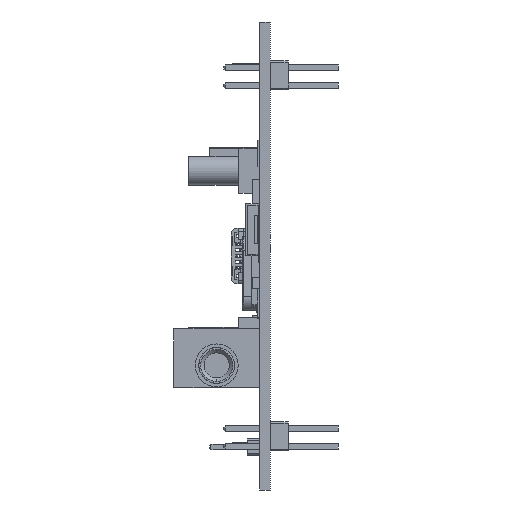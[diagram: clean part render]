
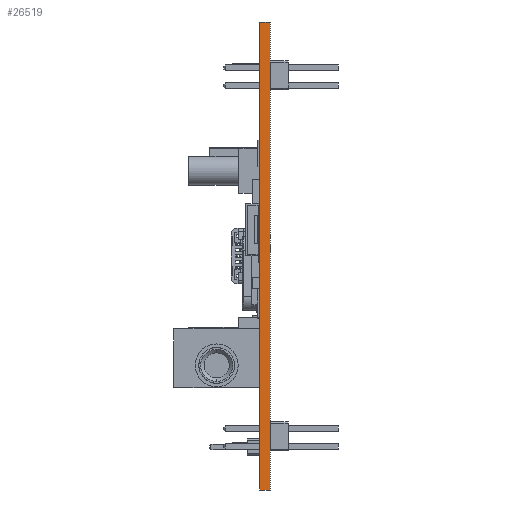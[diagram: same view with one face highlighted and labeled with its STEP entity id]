
A CAD part, left-side view. The second image highlights one B-rep face of the part: STEP entity #26519.
In plain terms, the highlighted planar face has unit normal (-1, 0, 0).
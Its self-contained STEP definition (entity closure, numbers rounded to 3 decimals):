
#107 = LINE ( 'NONE', #1070, #28729 ) ;
#1070 = CARTESIAN_POINT ( 'NONE',  ( 0., 1.5, 0. ) ) ;
#2971 = DIRECTION ( 'NONE',  ( 1., 0., 0. ) ) ;
#5841 = CARTESIAN_POINT ( 'NONE',  ( 0., 1.5, -65.5 ) ) ;
#7041 = ORIENTED_EDGE ( 'NONE', *, *, #13031, .T. ) ;
#7055 = LINE ( 'NONE', #74140, #35724 ) ;
#8002 = EDGE_CURVE ( 'NONE', #50422, #15890, #7055, .T. ) ;
#12854 = CARTESIAN_POINT ( 'NONE',  ( 0., 1.5, 0. ) ) ;
#13031 = EDGE_CURVE ( 'NONE', #48411, #47100, #34386, .T. ) ;
#13265 = ORIENTED_EDGE ( 'NONE', *, *, #37700, .T. ) ;
#15713 = EDGE_LOOP ( 'NONE', ( #13265, #45665, #55054, #64817, #60995, #7041 ) ) ;
#15890 = VERTEX_POINT ( 'NONE', #44245 ) ;
#18629 = VECTOR ( 'NONE', #67597, 1000. ) ;
#25695 = CARTESIAN_POINT ( 'NONE',  ( 0., 1.5, 0. ) ) ;
#26519 = ADVANCED_FACE ( 'NONE', ( #55957 ), #37247, .F. ) ;
#26538 = CARTESIAN_POINT ( 'NONE',  ( 0., 0., -65.5 ) ) ;
#28264 = VERTEX_POINT ( 'NONE', #40221 ) ;
#28331 = DIRECTION ( 'NONE',  ( 0., -1., 0. ) ) ;
#28371 = LINE ( 'NONE', #12854, #72272 ) ;
#28729 = VECTOR ( 'NONE', #52593, 1000. ) ;
#31512 = VERTEX_POINT ( 'NONE', #44092 ) ;
#32605 = VECTOR ( 'NONE', #63143, 1000. ) ;
#32634 = CARTESIAN_POINT ( 'NONE',  ( 0., 1.5, -65.5 ) ) ;
#34386 = LINE ( 'NONE', #5841, #32605 ) ;
#34491 = DIRECTION ( 'NONE',  ( 0., 0., 1. ) ) ;
#35640 = DIRECTION ( 'NONE',  ( 0., 0., 1. ) ) ;
#35724 = VECTOR ( 'NONE', #28331, 1000. ) ;
#37247 = PLANE ( 'NONE',  #54196 ) ;
#37700 = EDGE_CURVE ( 'NONE', #47100, #15890, #49139, .T. ) ;
#40221 = CARTESIAN_POINT ( 'NONE',  ( 0., 1.5, -32.748 ) ) ;
#40839 = EDGE_CURVE ( 'NONE', #48411, #28264, #54983, .T. ) ;
#42227 = EDGE_CURVE ( 'NONE', #31512, #50422, #107, .T. ) ;
#43019 = DIRECTION ( 'NONE',  ( 0., 0., -1. ) ) ;
#44092 = CARTESIAN_POINT ( 'NONE',  ( 0., 1.5, -25.426 ) ) ;
#44245 = CARTESIAN_POINT ( 'NONE',  ( 0., 0., 0. ) ) ;
#45665 = ORIENTED_EDGE ( 'NONE', *, *, #8002, .F. ) ;
#47100 = VERTEX_POINT ( 'NONE', #26538 ) ;
#48411 = VERTEX_POINT ( 'NONE', #32634 ) ;
#49139 = LINE ( 'NONE', #67347, #18629 ) ;
#50422 = VERTEX_POINT ( 'NONE', #64118 ) ;
#52593 = DIRECTION ( 'NONE',  ( 0., 0., 1. ) ) ;
#53173 = VECTOR ( 'NONE', #34491, 1000. ) ;
#54196 = AXIS2_PLACEMENT_3D ( 'NONE', #25695, #2971, #43019 ) ;
#54983 = LINE ( 'NONE', #68804, #53173 ) ;
#55054 = ORIENTED_EDGE ( 'NONE', *, *, #42227, .F. ) ;
#55957 = FACE_OUTER_BOUND ( 'NONE', #15713, .T. ) ;
#60995 = ORIENTED_EDGE ( 'NONE', *, *, #40839, .F. ) ;
#61272 = EDGE_CURVE ( 'NONE', #28264, #31512, #28371, .T. ) ;
#63143 = DIRECTION ( 'NONE',  ( 0., -1., 0. ) ) ;
#64118 = CARTESIAN_POINT ( 'NONE',  ( 0., 1.5, 0. ) ) ;
#64817 = ORIENTED_EDGE ( 'NONE', *, *, #61272, .F. ) ;
#67347 = CARTESIAN_POINT ( 'NONE',  ( 0., 0., 0. ) ) ;
#67597 = DIRECTION ( 'NONE',  ( 0., 0., 1. ) ) ;
#68804 = CARTESIAN_POINT ( 'NONE',  ( 0., 1.5, 0. ) ) ;
#72272 = VECTOR ( 'NONE', #35640, 1000. ) ;
#74140 = CARTESIAN_POINT ( 'NONE',  ( 0., 1.5, 0. ) ) ;
